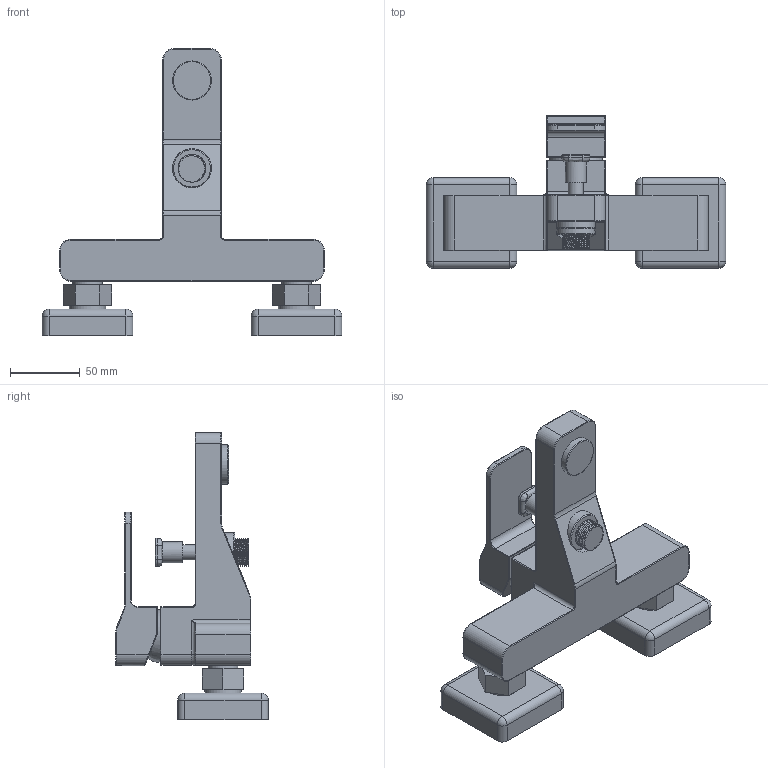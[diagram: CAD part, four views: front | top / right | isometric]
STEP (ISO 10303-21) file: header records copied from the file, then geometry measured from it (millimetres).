
FILE_DESCRIPTION(/* description */ (''),/* implementation_level */ '2;1');
FILE_NAME(/* name */ 'c:\worker\convert-fusion-oct-2018\tmp\job-1\5\output\files\c8a404ec-3583-4ada-a6b3-4915e08032fa\8c134a64-b309-4bfb-b175-2f131c00f5c0.stp',/* time_stamp */ '2018-10-17T11:55:24+00:00',/* author */ (''),/* organization */ (''),/* preprocessor_version */ 'ST-DEVELOPER v17.2',/* originating_system */ 'Autodesk Translation Framework v7.6.0.251',/* authorisation */ '');
FILE_SCHEMA (('AUTOMOTIVE_DESIGN { 1 0 10303 214 3 1 1 }'));
Length unit declared in the file: millimetre
Products named in the file (1): !SL7730
Bounding box: 215 x 109.46 x 206 mm (x, y, z)
Volume: 686663.9 mm3; surface area: 111744.9 mm2
Topology: 15 solids, 15 shells, 279 faces, 608 edges, 362 vertices
Faces by surface type: cylinder 125, plane 85, torus 42, bspline 15, sphere 12
Full cylindrical faces by diameter (mm): 11 x1, 15 x1, 18.137 x7, 19.85 x7, 21.4 x2, 26 x2, 28 x4
Entity records: 10033 total; most frequent: CARTESIAN_POINT 3874, DIRECTION 1350, ORIENTED_EDGE 1216, EDGE_CURVE 608, AXIS2_PLACEMENT_3D 539, VERTEX_POINT 362, EDGE_LOOP 284, FACE_OUTER_BOUND 279
